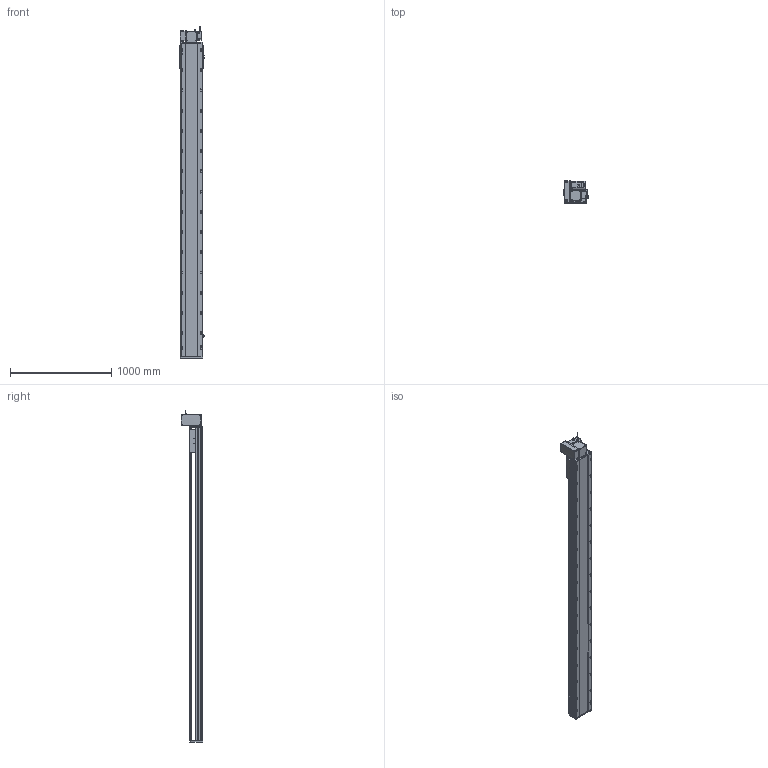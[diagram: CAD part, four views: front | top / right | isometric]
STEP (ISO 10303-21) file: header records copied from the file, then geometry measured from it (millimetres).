
FILE_DESCRIPTION (( 'STEP AP214' ), '1' );
FILE_NAME ('RTB22S-XX-2750-LW-M75-C4.STEP', '2025-12-12T07:03:38', ( '' ), ( '' ), 'SwSTEP 2.0', 'SolidWorks 2018', '' );
FILE_SCHEMA (( 'AUTOMOTIVE_DESIGN' ));
Length unit declared in the file: millimetre
Products named in the file (14): RTB22S-GY-005P^RTB22S-LW-々湍釱蚾饜_RTB22S-XX-XX-LW-M75-C4; RTB22S-GY-014--々湍釱^RTB22S-LW-々湍釱蚾饜_RTB22S-XX-XX-LW-M75-C4; OMRON EE-SX672 传感器^RTB22S-XX-XX-LW-M75-C4; RTB22S-GY-018P^RTB22S-LW-々湍釱蚾饜_RTB22S-XX-XX-LW-M75-C4; RTB22S-GY-008-M75--萇儂啣^RTB22S-LW-々湍釱蚾饜_RTB22S-XX-XX-LW-M75-C4; RTB22S-GY-017P^RTB22S-LW-々湍釱蚾饜_RTB22S-XX-XX-LW-M75-C4; RTB22S-GY-007奻裔^RTB22S-XX-XX-LW-M75-C4; RTB22S-XX-2750-LW-M75-C4; RTH22-GY-013外置感应片^RTB22S-XX-XX-LW-M75-C4; RTB22S-LW-々湍釱蚾饜^RTB22S-XX-XX-LW-M75-C4; RTB22S-GY-001耜裔^RTB22S-XX-XX-LW-M75-C4; 750W萇儂^RTB22S-XX-XX-LW-M75-C4; RTB22S-L-011菁釱^RTB22S-XX-XX-LW-M75-C4; RTB22S-L-004賑釱^RTB22S-XX-XX-LW-M75-C4
Assembly tree (16 placements, depth 3):
  RTB22S-XX-2750-LW-M75-C4
    RTB22S-L-011菁釱^RTB22S-XX-XX-LW-M75-C4
    RTB22S-GY-001耜裔^RTB22S-XX-XX-LW-M75-C4
    750W萇儂^RTB22S-XX-XX-LW-M75-C4
    RTB22S-GY-007奻裔^RTB22S-XX-XX-LW-M75-C4
    RTB22S-L-004賑釱^RTB22S-XX-XX-LW-M75-C4
    RTH22-GY-013外置感应片^RTB22S-XX-XX-LW-M75-C4
    OMRON EE-SX672 传感器^RTB22S-XX-XX-LW-M75-C4  x3
    RTB22S-LW-々湍釱蚾饜^RTB22S-XX-XX-LW-M75-C4
      RTB22S-GY-014--々湍釱^RTB22S-LW-々湍釱蚾饜_RTB22S-XX-XX-LW-M75-C4
      RTB22S-GY-017P^RTB22S-LW-々湍釱蚾饜_RTB22S-XX-XX-LW-M75-C4  x2
      RTB22S-GY-005P^RTB22S-LW-々湍釱蚾饜_RTB22S-XX-XX-LW-M75-C4
      RTB22S-GY-008-M75--萇儂啣^RTB22S-LW-々湍釱蚾饜_RTB22S-XX-XX-LW-M75-C4
      RTB22S-GY-018P^RTB22S-LW-々湍釱蚾饜_RTB22S-XX-XX-LW-M75-C4
Bounding box: 238.5 x 215.5 x 3282.2 mm (x, y, z)
Volume: 41677713.4 mm3; surface area: 4254747.8 mm2
Topology: 15 solids, 15 shells, 2127 faces, 5786 edges, 3692 vertices
Faces by surface type: plane 931, cylinder 718, bspline 296, cone 170, sphere 8, torus 4
Entity records: 58032 total; most frequent: CARTESIAN_POINT 16356, ORIENTED_EDGE 8296, DIRECTION 8122, EDGE_CURVE 4148, AXIS2_PLACEMENT_3D 2918, VERTEX_POINT 2696, LINE 2286, VECTOR 2286
